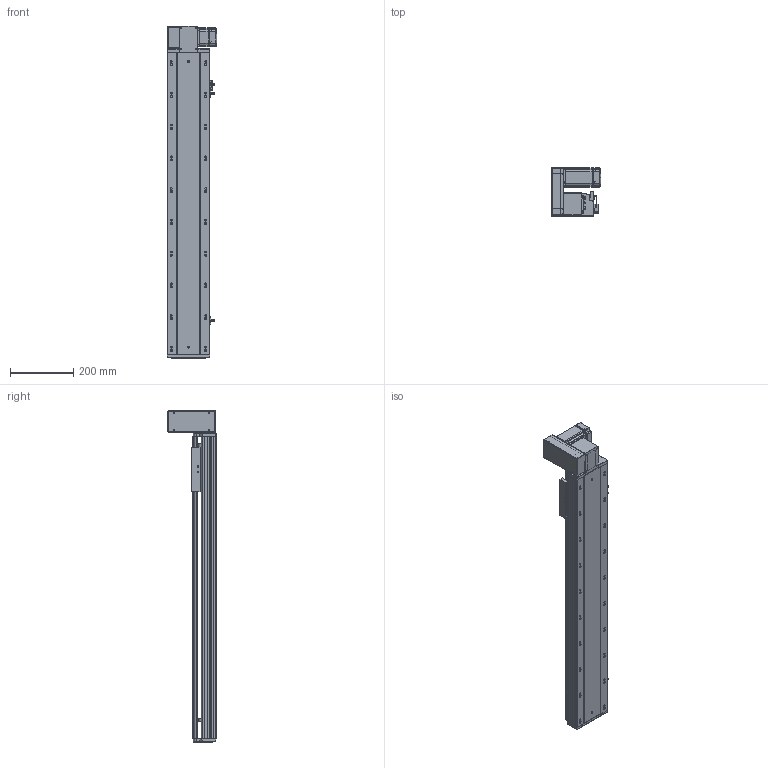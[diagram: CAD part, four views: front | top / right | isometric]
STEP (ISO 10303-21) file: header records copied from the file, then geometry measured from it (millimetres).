
FILE_DESCRIPTION (( 'STEP AP203' ), '1' );
FILE_NAME ('RY140-T-300-UL.SLDASM_700.step', '2021-03-01T07:43:24', ( '盈信电脑' ), ( '东莞市道滘镇水果街19号' ), 'SwSTEP 2.0', 'SolidWorks 2012', '' );
FILE_SCHEMA (( 'CONFIG_CONTROL_DESIGN' ));
Length unit declared in the file: millimetre
Products named in the file (18): RY140-T-300-UL.SLDASM_700; RY140-T翋肮謫裔啣; 滅袉蝶18-10; RY120-T蹟翐M4; RY140-T萇儂欶; RY120-T主同步轮轴承压盖; 15; RY140-T萇儂假蚾啣; 侂狟400W侜督萇儂; RY120外置感应片(140共用）; RY120-T肮祭湍揤踡輸2; RY140-T翋肮祭謫盓傅釱; RY120-T肮祭湍揤踡輸1; RY140綴裔啣; 覜茼ん672; RY140肮祭謫臏賑輸; RY140-T-300-DL倰第奻裔啣_700; RY140-T-300-DL倰第菁釱_700
Assembly tree (23 placements, depth 3):
  RY140-T-300-UL.SLDASM_700
    RY140-T-300-DL倰第菁釱_700
    RY140肮祭謫臏賑輸
    RY140-T-300-DL倰第奻裔啣_700
    RY140綴裔啣
    覜茼ん672  x3
    RY120外置感应片(140共用）
    RY120-T肮祭湍揤踡輸2
    RY120-T肮祭湍揤踡輸1
    RY140-T翋肮祭謫盓傅釱
    RY140-T萇儂假蚾啣
    侂狟400W侜督萇儂
      15
    RY120-T主同步轮轴承压盖
    RY120-T蹟翐M4  x4
    RY140-T萇儂欶
    滅袉蝶18-10  x2
    RY140-T翋肮謫裔啣
Bounding box: 157 x 152.5 x 1046 mm (x, y, z)
Volume: 3273385.4 mm3; surface area: 1232061.1 mm2
Topology: 22 solids, 22 shells, 2675 faces, 7369 edges, 4746 vertices
Faces by surface type: plane 1385, cylinder 992, cone 198, bspline 100
Entity records: 85311 total; most frequent: CARTESIAN_POINT 21003, ORIENTED_EDGE 13266, DIRECTION 12513, EDGE_CURVE 6633, VERTEX_POINT 4345, LINE 4217, VECTOR 4217, AXIS2_PLACEMENT_3D 4148
